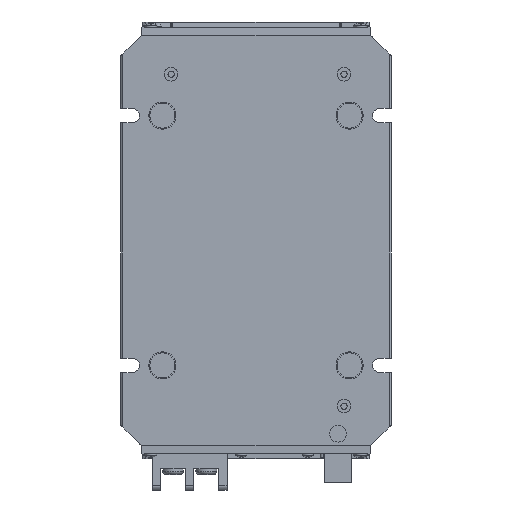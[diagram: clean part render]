
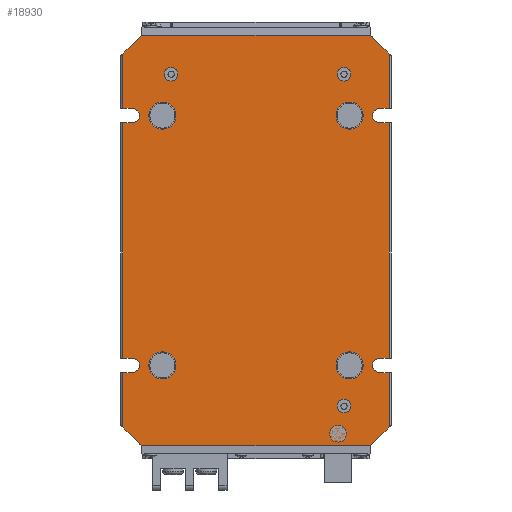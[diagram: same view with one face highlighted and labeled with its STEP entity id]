
A CAD part, front view. The second image highlights one B-rep face of the part: STEP entity #18930.
In plain terms, the highlighted planar face has unit normal (0, -1, 0).
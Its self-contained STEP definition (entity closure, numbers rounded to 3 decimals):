
#16300=CARTESIAN_POINT('',(2120.876,32.204,384.774));
#16310=DIRECTION('',(0.,1.,-0.));
#16320=DIRECTION('',(-1.,0.,0.));
#16330=AXIS2_PLACEMENT_3D('',#16300,#16310,#16320);
#16340=PLANE('',#16330);
#16350=CARTESIAN_POINT('',(2016.376,32.204,327.9));
#16360=DIRECTION('',(0.,-1.,0.));
#16370=DIRECTION('',(1.,0.,0.));
#16380=AXIS2_PLACEMENT_3D('',#16350,#16360,#16370);
#16390=CIRCLE('',#16380,6.5);
#16400=CARTESIAN_POINT('',(2009.876,32.204,327.9));
#16410=VERTEX_POINT('',#16400);
#16420=CARTESIAN_POINT('',(2022.876,32.204,327.9));
#16430=VERTEX_POINT('',#16420);
#16440=EDGE_CURVE('',#16410,#16430,#16390,.T.);
#16450=ORIENTED_EDGE('',*,*,#16440,.F.);
#16460=EDGE_CURVE('',#16430,#16410,#16390,.T.);
#16470=ORIENTED_EDGE('',*,*,#16460,.F.);
#16480=EDGE_LOOP('',(#16470,#16450));
#16490=FACE_BOUND('',#16480,.T.);
#16500=CARTESIAN_POINT('',(2106.376,32.204,327.9));
#16510=DIRECTION('',(0.,-1.,0.));
#16520=DIRECTION('',(1.,0.,0.));
#16530=AXIS2_PLACEMENT_3D('',#16500,#16510,#16520);
#16540=CIRCLE('',#16530,6.5);
#16550=CARTESIAN_POINT('',(2112.876,32.204,327.9));
#16560=VERTEX_POINT('',#16550);
#16570=CARTESIAN_POINT('',(2099.876,32.204,327.9));
#16580=VERTEX_POINT('',#16570);
#16590=EDGE_CURVE('',#16560,#16580,#16540,.T.);
#16600=ORIENTED_EDGE('',*,*,#16590,.F.);
#16610=EDGE_CURVE('',#16580,#16560,#16540,.T.);
#16620=ORIENTED_EDGE('',*,*,#16610,.F.);
#16630=EDGE_LOOP('',(#16620,#16600));
#16640=FACE_BOUND('',#16630,.T.);
#16650=CARTESIAN_POINT('',(2016.376,32.204,207.9));
#16660=DIRECTION('',(0.,-1.,0.));
#16670=DIRECTION('',(1.,0.,0.));
#16680=AXIS2_PLACEMENT_3D('',#16650,#16660,#16670);
#16690=CIRCLE('',#16680,6.5);
#16700=CARTESIAN_POINT('',(2009.876,32.204,207.9));
#16710=VERTEX_POINT('',#16700);
#16720=CARTESIAN_POINT('',(2022.876,32.204,207.9));
#16730=VERTEX_POINT('',#16720);
#16740=EDGE_CURVE('',#16710,#16730,#16690,.T.);
#16750=ORIENTED_EDGE('',*,*,#16740,.F.);
#16760=EDGE_CURVE('',#16730,#16710,#16690,.T.);
#16770=ORIENTED_EDGE('',*,*,#16760,.F.);
#16780=EDGE_LOOP('',(#16770,#16750));
#16790=FACE_BOUND('',#16780,.T.);
#16800=CARTESIAN_POINT('',(2106.376,32.204,207.9));
#16810=DIRECTION('',(0.,-1.,0.));
#16820=DIRECTION('',(1.,0.,0.));
#16830=AXIS2_PLACEMENT_3D('',#16800,#16810,#16820);
#16840=CIRCLE('',#16830,6.5);
#16850=CARTESIAN_POINT('',(2112.876,32.204,207.9));
#16860=VERTEX_POINT('',#16850);
#16870=CARTESIAN_POINT('',(2099.876,32.204,207.9));
#16880=VERTEX_POINT('',#16870);
#16890=EDGE_CURVE('',#16860,#16880,#16840,.T.);
#16900=ORIENTED_EDGE('',*,*,#16890,.F.);
#16910=EDGE_CURVE('',#16880,#16860,#16840,.T.);
#16920=ORIENTED_EDGE('',*,*,#16910,.F.);
#16930=EDGE_LOOP('',(#16920,#16900));
#16940=FACE_BOUND('',#16930,.T.);
#16950=CARTESIAN_POINT('',(1639.876,32.204,0.));
#16960=DIRECTION('',(0.707,0.,0.707));
#16970=VECTOR('',#16960,1.);
#16980=LINE('',#16950,#16970);
#16990=CARTESIAN_POINT('',(1997.376,32.204,357.5));
#17000=VERTEX_POINT('',#16990);
#17010=CARTESIAN_POINT('',(2006.376,32.204,366.5));
#17020=VERTEX_POINT('',#17010);
#17030=EDGE_CURVE('',#17000,#17020,#16980,.T.);
#17040=ORIENTED_EDGE('',*,*,#17030,.F.);
#17050=CARTESIAN_POINT('',(0.,32.204,366.5));
#17060=DIRECTION('',(1.,0.,0.));
#17070=VECTOR('',#17060,1.);
#17080=LINE('',#17050,#17070);
#17090=CARTESIAN_POINT('',(2116.376,32.204,366.5));
#17100=VERTEX_POINT('',#17090);
#17110=EDGE_CURVE('',#17020,#17100,#17080,.T.);
#17120=ORIENTED_EDGE('',*,*,#17110,.F.);
#17130=CARTESIAN_POINT('',(2482.876,32.204,0.));
#17140=DIRECTION('',(0.707,0.,-0.707));
#17150=VECTOR('',#17140,1.);
#17160=LINE('',#17130,#17150);
#17170=CARTESIAN_POINT('',(2125.376,32.204,357.5));
#17180=VERTEX_POINT('',#17170);
#17190=EDGE_CURVE('',#17100,#17180,#17160,.T.);
#17200=ORIENTED_EDGE('',*,*,#17190,.F.);
#17210=CARTESIAN_POINT('',(2125.376,32.204,0.));
#17220=DIRECTION('',(0.,0.,-1.));
#17230=VECTOR('',#17220,1.);
#17240=LINE('',#17210,#17230);
#17250=CARTESIAN_POINT('',(2125.376,32.204,331.4));
#17260=VERTEX_POINT('',#17250);
#17270=EDGE_CURVE('',#17180,#17260,#17240,.T.);
#17280=ORIENTED_EDGE('',*,*,#17270,.F.);
#17290=CARTESIAN_POINT('',(0.,32.204,331.4));
#17300=DIRECTION('',(-1.,0.,0.));
#17310=VECTOR('',#17300,1.);
#17320=LINE('',#17290,#17310);
#17330=CARTESIAN_POINT('',(2120.876,32.204,331.4));
#17340=VERTEX_POINT('',#17330);
#17350=EDGE_CURVE('',#17260,#17340,#17320,.T.);
#17360=ORIENTED_EDGE('',*,*,#17350,.F.);
#17370=CARTESIAN_POINT('',(2120.876,32.204,327.9));
#17380=DIRECTION('',(0.,-1.,0.));
#17390=DIRECTION('',(0.,0.,-1.));
#17400=AXIS2_PLACEMENT_3D('',#17370,#17380,#17390);
#17410=CIRCLE('',#17400,3.5);
#17420=CARTESIAN_POINT('',(2120.876,32.204,324.4));
#17430=VERTEX_POINT('',#17420);
#17440=EDGE_CURVE('',#17340,#17430,#17410,.T.);
#17450=ORIENTED_EDGE('',*,*,#17440,.F.);
#17460=CARTESIAN_POINT('',(0.,32.204,324.4));
#17470=DIRECTION('',(1.,0.,0.));
#17480=VECTOR('',#17470,1.);
#17490=LINE('',#17460,#17480);
#17500=CARTESIAN_POINT('',(2125.376,32.204,324.4));
#17510=VERTEX_POINT('',#17500);
#17520=EDGE_CURVE('',#17430,#17510,#17490,.T.);
#17530=ORIENTED_EDGE('',*,*,#17520,.F.);
#17540=CARTESIAN_POINT('',(2125.376,32.204,0.));
#17550=DIRECTION('',(0.,0.,-1.));
#17560=VECTOR('',#17550,1.);
#17570=LINE('',#17540,#17560);
#17580=CARTESIAN_POINT('',(2125.376,32.204,211.4));
#17590=VERTEX_POINT('',#17580);
#17600=EDGE_CURVE('',#17510,#17590,#17570,.T.);
#17610=ORIENTED_EDGE('',*,*,#17600,.F.);
#17620=CARTESIAN_POINT('',(0.,32.204,211.4));
#17630=DIRECTION('',(-1.,0.,0.));
#17640=VECTOR('',#17630,1.);
#17650=LINE('',#17620,#17640);
#17660=CARTESIAN_POINT('',(2120.876,32.204,211.4));
#17670=VERTEX_POINT('',#17660);
#17680=EDGE_CURVE('',#17590,#17670,#17650,.T.);
#17690=ORIENTED_EDGE('',*,*,#17680,.F.);
#17700=CARTESIAN_POINT('',(2120.876,32.204,207.9));
#17710=DIRECTION('',(0.,-1.,0.));
#17720=DIRECTION('',(0.,0.,-1.));
#17730=AXIS2_PLACEMENT_3D('',#17700,#17710,#17720);
#17740=CIRCLE('',#17730,3.5);
#17750=CARTESIAN_POINT('',(2120.876,32.204,204.4));
#17760=VERTEX_POINT('',#17750);
#17770=EDGE_CURVE('',#17670,#17760,#17740,.T.);
#17780=ORIENTED_EDGE('',*,*,#17770,.F.);
#17790=CARTESIAN_POINT('',(0.,32.204,204.4));
#17800=DIRECTION('',(1.,0.,0.));
#17810=VECTOR('',#17800,1.);
#17820=LINE('',#17790,#17810);
#17830=CARTESIAN_POINT('',(2125.376,32.204,204.4));
#17840=VERTEX_POINT('',#17830);
#17850=EDGE_CURVE('',#17760,#17840,#17820,.T.);
#17860=ORIENTED_EDGE('',*,*,#17850,.F.);
#17870=CARTESIAN_POINT('',(2125.376,32.204,0.));
#17880=DIRECTION('',(0.,0.,-1.));
#17890=VECTOR('',#17880,1.);
#17900=LINE('',#17870,#17890);
#17910=CARTESIAN_POINT('',(2125.376,32.204,178.3));
#17920=VERTEX_POINT('',#17910);
#17930=EDGE_CURVE('',#17840,#17920,#17900,.T.);
#17940=ORIENTED_EDGE('',*,*,#17930,.F.);
#17950=CARTESIAN_POINT('',(1938.476,32.204,-8.6));
#17960=DIRECTION('',(-0.707,0.,-0.707));
#17970=VECTOR('',#17960,1.);
#17980=LINE('',#17950,#17970);
#17990=CARTESIAN_POINT('',(2116.376,32.204,169.3));
#18000=VERTEX_POINT('',#17990);
#18010=EDGE_CURVE('',#17920,#18000,#17980,.T.);
#18020=ORIENTED_EDGE('',*,*,#18010,.F.);
#18030=CARTESIAN_POINT('',(0.,32.204,169.3));
#18040=DIRECTION('',(1.,0.,0.));
#18050=VECTOR('',#18040,1.);
#18060=LINE('',#18030,#18050);
#18070=CARTESIAN_POINT('',(2006.376,32.204,169.3));
#18080=VERTEX_POINT('',#18070);
#18090=EDGE_CURVE('',#18080,#18000,#18060,.T.);
#18100=ORIENTED_EDGE('',*,*,#18090,.T.);
#18110=CARTESIAN_POINT('',(2184.276,32.204,-8.6));
#18120=DIRECTION('',(-0.707,0.,0.707));
#18130=VECTOR('',#18120,1.);
#18140=LINE('',#18110,#18130);
#18150=CARTESIAN_POINT('',(1997.376,32.204,178.3));
#18160=VERTEX_POINT('',#18150);
#18170=EDGE_CURVE('',#18080,#18160,#18140,.T.);
#18180=ORIENTED_EDGE('',*,*,#18170,.F.);
#18190=CARTESIAN_POINT('',(1997.376,32.204,0.));
#18200=DIRECTION('',(0.,0.,1.));
#18210=VECTOR('',#18200,1.);
#18220=LINE('',#18190,#18210);
#18230=CARTESIAN_POINT('',(1997.376,32.204,204.4));
#18240=VERTEX_POINT('',#18230);
#18250=EDGE_CURVE('',#18160,#18240,#18220,.T.);
#18260=ORIENTED_EDGE('',*,*,#18250,.F.);
#18270=CARTESIAN_POINT('',(0.,32.204,204.4));
#18280=DIRECTION('',(1.,0.,0.));
#18290=VECTOR('',#18280,1.);
#18300=LINE('',#18270,#18290);
#18310=CARTESIAN_POINT('',(2001.876,32.204,204.4));
#18320=VERTEX_POINT('',#18310);
#18330=EDGE_CURVE('',#18240,#18320,#18300,.T.);
#18340=ORIENTED_EDGE('',*,*,#18330,.F.);
#18350=CARTESIAN_POINT('',(2001.876,32.204,207.9));
#18360=DIRECTION('',(0.,-1.,0.));
#18370=DIRECTION('',(0.,0.,-1.));
#18380=AXIS2_PLACEMENT_3D('',#18350,#18360,#18370);
#18390=CIRCLE('',#18380,3.5);
#18400=CARTESIAN_POINT('',(2001.876,32.204,211.4));
#18410=VERTEX_POINT('',#18400);
#18420=EDGE_CURVE('',#18320,#18410,#18390,.T.);
#18430=ORIENTED_EDGE('',*,*,#18420,.F.);
#18440=CARTESIAN_POINT('',(0.,32.204,211.4));
#18450=DIRECTION('',(-1.,0.,0.));
#18460=VECTOR('',#18450,1.);
#18470=LINE('',#18440,#18460);
#18480=CARTESIAN_POINT('',(1997.376,32.204,211.4));
#18490=VERTEX_POINT('',#18480);
#18500=EDGE_CURVE('',#18410,#18490,#18470,.T.);
#18510=ORIENTED_EDGE('',*,*,#18500,.F.);
#18520=CARTESIAN_POINT('',(1997.376,32.204,0.));
#18530=DIRECTION('',(0.,0.,1.));
#18540=VECTOR('',#18530,1.);
#18550=LINE('',#18520,#18540);
#18560=CARTESIAN_POINT('',(1997.376,32.204,324.4));
#18570=VERTEX_POINT('',#18560);
#18580=EDGE_CURVE('',#18490,#18570,#18550,.T.);
#18590=ORIENTED_EDGE('',*,*,#18580,.F.);
#18600=CARTESIAN_POINT('',(0.,32.204,324.4));
#18610=DIRECTION('',(1.,0.,0.));
#18620=VECTOR('',#18610,1.);
#18630=LINE('',#18600,#18620);
#18640=CARTESIAN_POINT('',(2001.876,32.204,324.4));
#18650=VERTEX_POINT('',#18640);
#18660=EDGE_CURVE('',#18570,#18650,#18630,.T.);
#18670=ORIENTED_EDGE('',*,*,#18660,.F.);
#18680=CARTESIAN_POINT('',(2001.876,32.204,327.9));
#18690=DIRECTION('',(0.,-1.,0.));
#18700=DIRECTION('',(0.,0.,-1.));
#18710=AXIS2_PLACEMENT_3D('',#18680,#18690,#18700);
#18720=CIRCLE('',#18710,3.5);
#18730=CARTESIAN_POINT('',(2001.876,32.204,331.4));
#18740=VERTEX_POINT('',#18730);
#18750=EDGE_CURVE('',#18650,#18740,#18720,.T.);
#18760=ORIENTED_EDGE('',*,*,#18750,.F.);
#18770=CARTESIAN_POINT('',(0.,32.204,331.4));
#18780=DIRECTION('',(-1.,0.,0.));
#18790=VECTOR('',#18780,1.);
#18800=LINE('',#18770,#18790);
#18810=CARTESIAN_POINT('',(1997.376,32.204,331.4));
#18820=VERTEX_POINT('',#18810);
#18830=EDGE_CURVE('',#18740,#18820,#18800,.T.);
#18840=ORIENTED_EDGE('',*,*,#18830,.F.);
#18850=CARTESIAN_POINT('',(1997.376,32.204,0.));
#18860=DIRECTION('',(0.,0.,1.));
#18870=VECTOR('',#18860,1.);
#18880=LINE('',#18850,#18870);
#18890=EDGE_CURVE('',#18820,#17000,#18880,.T.);
#18900=ORIENTED_EDGE('',*,*,#18890,.F.);
#18910=EDGE_LOOP('',(#18900,#18840,#18760,#18670,#18590,#18510,#18430,
#18340,#18260,#18180,#18100,#18020,#17940,#17860,#17780,#17690,#17610,
#17530,#17450,#17360,#17280,#17200,#17120,#17040));
#18920=FACE_OUTER_BOUND('',#18910,.T.);
#18930=ADVANCED_FACE('',(#16490,#16640,#16790,#16940,#18920),#16340,.F.)
;
